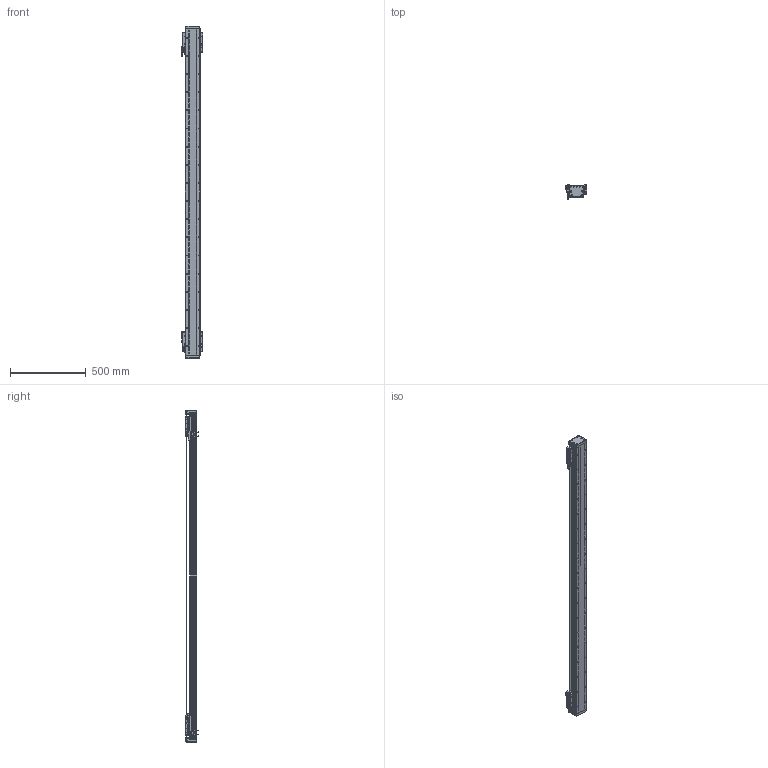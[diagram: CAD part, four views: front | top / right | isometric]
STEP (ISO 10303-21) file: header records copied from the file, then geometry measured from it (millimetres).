
FILE_DESCRIPTION (( 'STEP AP203' ), '1' );
FILE_NAME ('DA-B95-2-B15-T1840-C010-0.2 直线电机.STEP', '2023-05-06T06:34:03', ( '微软用户' ), ( '微软中国' ), 'SwSTEP 2.0', 'SolidWorks 2019', '' );
FILE_SCHEMA (( 'CONFIG_CONTROL_DESIGN' ));
Length unit declared in the file: millimetre
Products named in the file (34): 葩璃 PM-Y45^DA-A95-B15-T-C010-0.2-N 眻盄萇儂; 葩璃 DA95-B15-DP--B-00 菜えB^66245-BU95-V 幗紩賑怢; 复件 复件 18252-0001-002-00 钢带垫块^DA-A95-B15-T-C010-0.2-N 直线电机; DA-A95-GYP-00 光电感应片^DA-A95-B15-T-C010-0.2-N 直线电机; IU-BU95-L-00 菁釱_L2160; LMDK-2-R001-V5-L02-C1-F00，0.2M 读数头^DA-A95-B15-T-C010-0.2-N 直线电机_DMA-010-0.2; 复件 DA95-B15 钢带盖板^DA-A95-B15-T-C010-0.2-N 直线电机; 复件 DKW-GYP-ZJ-00 中间光电感应片^DA-A95-B15-T-C010-0.2-N 直线电机; 复件 复件 18252-0001-004-00 钢带端盖^DA-A95-B15-T-C010-0.2-N 直线电机; 葩璃 DA95-B15-DP-A-00 菜えA^66245-BU95-V 幗紩賑怢; 复件 DKW-HXJ-JY-00 缓冲橡胶^DA-A95-B15-T-C010-0.2-N 直线电机; IU-BU95-L 菁釱絳寢; 葩璃 DA95-GT-T-00^IU-BU95-L 菁釱絳寢_DA95; 复件 六角薄螺母 M3^DA-A95-B15-T-C010-0.2-N 直线电机_GB_FASTENER_NUT_STNAB M3-C; 复件 DA95-B15-YB-B-00 压板B^66245-BU95-V 滚珠滑台; 葩璃 BKM015-W060-C1-TP-DA-0.2^DA-A95-B15-T-C010-0.2-N 眻盄萇儂; 复件 DA95-HK-GT-00 滑块钢轨^66245-BU95-V-00 一体化滑动台板; 复件 DA95-B15-YB-A-00 压板A^66245-BU95-V 滚珠滑台; PM-T45 光电开关^DA-A95-B15-T-C010-0.2-N 直线电机; 复件 复件 18252-0001-003-00 钢带拉块^DA-A95-B15-T-C010-0.2-N 直线电机; DA95-HXJ-00 缓冲橡胶^DA-A95-B15-T-C010-0.2-N 直线电机; 66245-BU95-V-00 珨极趙賑雄怢啣; B15 XD-U-02L ｴﾅﾕ､ｳﾟ^DA-A95-B15-T-C010-0.2-N ﾖｱﾏﾟｵ扈銈XD-U-02L; 66245-BU95-V 幗紩賑怢; 复件 纯铜油杯 6x6mm^66245-BU95-V 滚珠滑台; 复件 DKW-KGZ-ZJ-00 中间光电开关支架^DA-A95-B15-T-C010-0.2-N 直线电机; 复件 DA95-DB-00  挡板^66245-BU95-V 滚珠滑台; 复件 DA95-MFP-01 密封片^66245-BU95-V 滚珠滑台; DA-B95-2-B15-T1840-C010-0.2 眻盄萇儂; 葩璃 BKMA01-W060-TRL^DA-A95-B15-T-C010-0.2-N 眻盄萇儂; 复件 66245-BU95-HT-V-01 滑动台板^66245-BU95-V-00 一体化滑动台板; 复件 DA95-DK-00 挡块^66245-BU95-V 滚珠滑台
Assembly tree (80 placements, depth 4):
  DA-B95-2-B15-T1840-C010-0.2 眻盄萇儂
    IU-BU95-L 菁釱絳寢
      IU-BU95-L-00 菁釱_L2160
      葩璃 DA95-GT-T-00^IU-BU95-L 菁釱絳寢_DA95  x2
    66245-BU95-V 幗紩賑怢
      66245-BU95-V-00 珨极趙賑雄怢啣
        复件 66245-BU95-HT-V-01 滑动台板^66245-BU95-V-00 一体化滑动台板
        复件 DA95-HK-GT-00 滑块钢轨^66245-BU95-V-00 一体化滑动台板  x2
      葩璃 DA95-B15-DP-A-00 菜えA^66245-BU95-V 幗紩賑怢
      复件 DA95-B15-YB-A-00 压板A^66245-BU95-V 滚珠滑台
      复件 DA95-B15-YB-B-00 压板B^66245-BU95-V 滚珠滑台
      复件 DA95-DB-00  挡板^66245-BU95-V 滚珠滑台  x4
      复件 DA95-DK-00 挡块^66245-BU95-V 滚珠滑台  x2
      复件 DA95-MFP-01 密封片^66245-BU95-V 滚珠滑台  x4
      复件 纯铜油杯 6x6mm^66245-BU95-V 滚珠滑台  x2
      葩璃 DA95-B15-DP--B-00 菜えB^66245-BU95-V 幗紩賑怢
    66245-BU95-V 幗紩賑怢
      66245-BU95-V-00 珨极趙賑雄怢啣
        复件 66245-BU95-HT-V-01 滑动台板^66245-BU95-V-00 一体化滑动台板
        复件 DA95-HK-GT-00 滑块钢轨^66245-BU95-V-00 一体化滑动台板  x2
      葩璃 DA95-B15-DP-A-00 菜えA^66245-BU95-V 幗紩賑怢
      复件 DA95-B15-YB-A-00 压板A^66245-BU95-V 滚珠滑台
      复件 DA95-B15-YB-B-00 压板B^66245-BU95-V 滚珠滑台
      复件 DA95-DB-00  挡板^66245-BU95-V 滚珠滑台  x4
      复件 DA95-DK-00 挡块^66245-BU95-V 滚珠滑台  x2
      复件 DA95-MFP-01 密封片^66245-BU95-V 滚珠滑台  x4
      复件 纯铜油杯 6x6mm^66245-BU95-V 滚珠滑台  x2
      葩璃 DA95-B15-DP--B-00 菜えB^66245-BU95-V 幗紩賑怢
    DA-A95-GYP-00 光电感应片^DA-A95-B15-T-C010-0.2-N 直线电机  x2
    LMDK-2-R001-V5-L02-C1-F00，0.2M 读数头^DA-A95-B15-T-C010-0.2-N 直线电机_DMA-010-0.2  x2
    复件 DKW-KGZ-ZJ-00 中间光电开关支架^DA-A95-B15-T-C010-0.2-N 直线电机
    葩璃 PM-Y45^DA-A95-B15-T-C010-0.2-N 眻盄萇儂
    复件 DKW-GYP-ZJ-00 中间光电感应片^DA-A95-B15-T-C010-0.2-N 直线电机
    葩璃 BKM015-W060-C1-TP-DA-0.2^DA-A95-B15-T-C010-0.2-N 眻盄萇儂  x2
    复件 DKW-HXJ-JY-00 缓冲橡胶^DA-A95-B15-T-C010-0.2-N 直线电机  x2
    PM-T45 光电开关^DA-A95-B15-T-C010-0.2-N 直线电机  x4
    B15 XD-U-02L ｴﾅﾕ､ｳﾟ^DA-A95-B15-T-C010-0.2-N ﾖｱﾏﾟｵ扈銈XD-U-02L
    复件 复件 18252-0001-003-00 钢带拉块^DA-A95-B15-T-C010-0.2-N 直线电机  x2
    复件 复件 18252-0001-002-00 钢带垫块^DA-A95-B15-T-C010-0.2-N 直线电机  x2
    复件 复件 18252-0001-004-00 钢带端盖^DA-A95-B15-T-C010-0.2-N 直线电机  x2
    复件 DA95-B15 钢带盖板^DA-A95-B15-T-C010-0.2-N 直线电机
    DA95-HXJ-00 缓冲橡胶^DA-A95-B15-T-C010-0.2-N 直线电机  x4
    葩璃 BKMA01-W060-TRL^DA-A95-B15-T-C010-0.2-N 眻盄萇儂
    复件 六角薄螺母 M3^DA-A95-B15-T-C010-0.2-N 直线电机_GB_FASTENER_NUT_STNAB M3-C  x6
Bounding box: 145.4 x 90.2 x 2196 mm (x, y, z)
Volume: 7317837.3 mm3; surface area: 2407282.8 mm2
Topology: 75 solids, 93 shells, 4048 faces, 11260 edges, 7119 vertices
Faces by surface type: cylinder 2037, plane 1479, cone 464, torus 64, sphere 4
Entity records: 93846 total; most frequent: CARTESIAN_POINT 23788, ORIENTED_EDGE 13878, DIRECTION 13594, EDGE_CURVE 6939, AXIS2_PLACEMENT_3D 5157, VERTEX_POINT 4521, LINE 3280, VECTOR 3280
